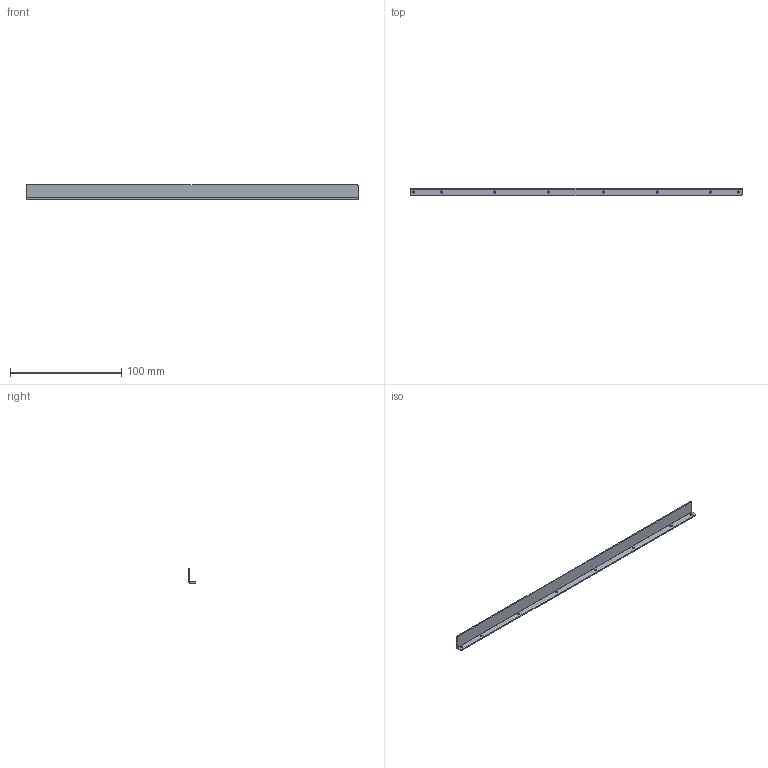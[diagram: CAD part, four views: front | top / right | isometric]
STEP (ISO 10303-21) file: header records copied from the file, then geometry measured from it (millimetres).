
FILE_DESCRIPTION(/* description */ ('','CAx-IF Rec.Pracs.---Representation and Presentation of Product Manufacturing Information (PMI)---4.0---2014-10-13'),/* implementation_level */ '2;1');
FILE_NAME(/* name */ 'bottom_stiffener.step',/* time_stamp */ '2025-01-18T16:32:08+05:00',/* author */ (''),/* organization */ (''),/* preprocessor_version */ 'ST-DEVELOPER v20',/* originating_system */ 'Autodesk Translation Framework v13.20.0.188',/* authorisation */ '');
FILE_SCHEMA (('AP242_MANAGED_MODEL_BASED_3D_ENGINEERING_MIM_LF { 1 0 10303 442 1 1 4 }'));
Length unit declared in the file: inch
Products named in the file (1): bottom_stiffener
Bounding box: 298.45 x 6.35 x 12.7 mm (x, y, z)
Volume: 5362.5 mm3; surface area: 11246.1 mm2
Topology: 1 solids, 1 shells, 26 faces, 64 edges, 40 vertices
Faces by surface type: cylinder 14, plane 12
Full cylindrical faces by diameter (mm): 1.905 x8
Entity records: 839 total; most frequent: DIRECTION 146, CARTESIAN_POINT 131, ORIENTED_EDGE 128, EDGE_CURVE 64, AXIS2_PLACEMENT_3D 55, EDGE_LOOP 42, VERTEX_POINT 40, LINE 36
